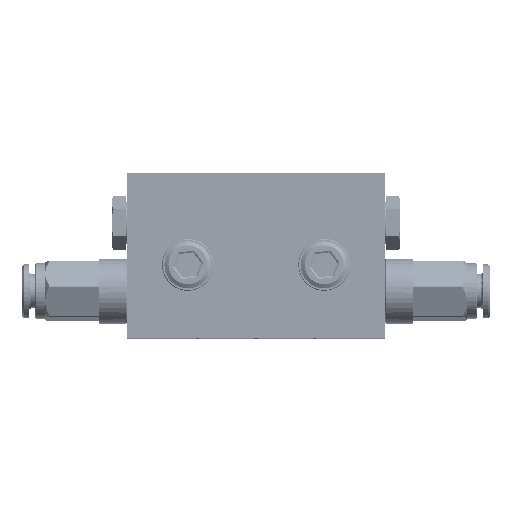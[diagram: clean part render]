
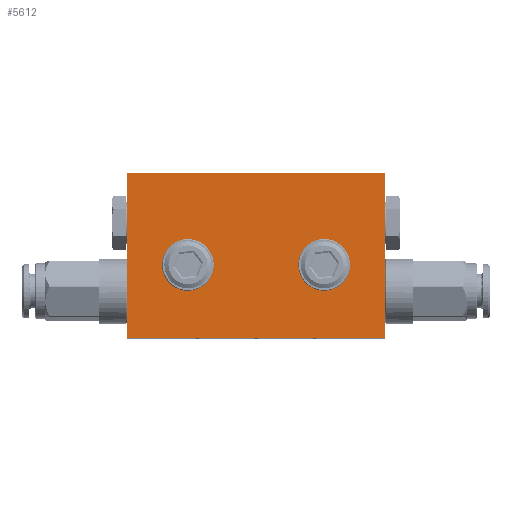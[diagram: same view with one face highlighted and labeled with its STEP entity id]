
A CAD part, top view. The second image highlights one B-rep face of the part: STEP entity #5612.
In plain terms, the highlighted planar face has unit normal (0, 0, 1) as drawn and (0, 0, -1) by its records, which use the part's own axes.
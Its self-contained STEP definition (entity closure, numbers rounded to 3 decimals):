
#261 = CARTESIAN_POINT ( 'NONE',  ( 27.5, 0., -4.85 ) ) ;
#298 = EDGE_CURVE ( 'NONE', #6702, #42361, #24674, .T. ) ;
#739 = ORIENTED_EDGE ( 'NONE', *, *, #5081, .F. ) ;
#1120 = FACE_OUTER_BOUND ( 'NONE', #42369, .T. ) ;
#1763 = CARTESIAN_POINT ( 'NONE',  ( 0., 0., -4.85 ) ) ;
#3007 = EDGE_LOOP ( 'NONE', ( #16946 ) ) ;
#4751 = FACE_BOUND ( 'NONE', #3007, .T. ) ;
#4778 = EDGE_CURVE ( 'NONE', #42361, #9513, #15328, .T. ) ;
#5081 = EDGE_CURVE ( 'NONE', #14073, #6702, #44138, .T. ) ;
#5324 = EDGE_CURVE ( 'NONE', #10629, #10629, #19378, .T. ) ;
#5612 = ADVANCED_FACE ( 'NONE', ( #4751, #7885, #1120 ), #37712, .F. ) ;
#6024 = VERTEX_POINT ( 'NONE', #46872 ) ;
#6702 = VERTEX_POINT ( 'NONE', #261 ) ;
#7086 = VECTOR ( 'NONE', #36971, 1000. ) ;
#7885 = FACE_BOUND ( 'NONE', #28309, .T. ) ;
#9484 = DIRECTION ( 'NONE',  ( -1., 0., 0. ) ) ;
#9513 = VERTEX_POINT ( 'NONE', #18565 ) ;
#10152 = CARTESIAN_POINT ( 'NONE',  ( -14.5, -15.5, -4.85 ) ) ;
#10629 = VERTEX_POINT ( 'NONE', #29866 ) ;
#11690 = DIRECTION ( 'NONE',  ( 0., 1., 0. ) ) ;
#12054 = VECTOR ( 'NONE', #36274, 1000. ) ;
#14073 = VERTEX_POINT ( 'NONE', #37720 ) ;
#15328 = LINE ( 'NONE', #44198, #7086 ) ;
#15565 = DIRECTION ( 'NONE',  ( 1., 0., 0. ) ) ;
#15958 = CIRCLE ( 'NONE', #17521, 3.1 ) ;
#16121 = EDGE_CURVE ( 'NONE', #6024, #6024, #15958, .T. ) ;
#16946 = ORIENTED_EDGE ( 'NONE', *, *, #5324, .F. ) ;
#16971 = CARTESIAN_POINT ( 'NONE',  ( 14.5, -15.5, -4.85 ) ) ;
#17098 = AXIS2_PLACEMENT_3D ( 'NONE', #10152, #24858, #39499 ) ;
#17420 = DIRECTION ( 'NONE',  ( -1., 0., 0. ) ) ;
#17521 = AXIS2_PLACEMENT_3D ( 'NONE', #16971, #35700, #9484 ) ;
#18565 = CARTESIAN_POINT ( 'NONE',  ( -27.5, -35., -4.85 ) ) ;
#19378 = CIRCLE ( 'NONE', #17098, 3.1 ) ;
#19491 = ORIENTED_EDGE ( 'NONE', *, *, #16121, .F. ) ;
#21664 = CARTESIAN_POINT ( 'NONE',  ( 0., -35., -4.85 ) ) ;
#24674 = LINE ( 'NONE', #1763, #40849 ) ;
#24858 = DIRECTION ( 'NONE',  ( 0., 0., -1. ) ) ;
#26204 = CARTESIAN_POINT ( 'NONE',  ( -27.5, 0., -4.85 ) ) ;
#28309 = EDGE_LOOP ( 'NONE', ( #19491 ) ) ;
#29067 = EDGE_CURVE ( 'NONE', #9513, #14073, #32671, .T. ) ;
#29739 = CARTESIAN_POINT ( 'NONE',  ( 27.5, 0., -4.85 ) ) ;
#29866 = CARTESIAN_POINT ( 'NONE',  ( -11.4, -15.5, -4.85 ) ) ;
#32671 = LINE ( 'NONE', #21664, #12054 ) ;
#33365 = CARTESIAN_POINT ( 'NONE',  ( 0., 0., -4.85 ) ) ;
#33851 = DIRECTION ( 'NONE',  ( 0., 0., 1. ) ) ;
#34761 = AXIS2_PLACEMENT_3D ( 'NONE', #33365, #33851, #15565 ) ;
#35700 = DIRECTION ( 'NONE',  ( 0., 0., -1. ) ) ;
#36274 = DIRECTION ( 'NONE',  ( 1., 0., 0. ) ) ;
#36971 = DIRECTION ( 'NONE',  ( 0., -1., 0. ) ) ;
#37712 = PLANE ( 'NONE',  #34761 ) ;
#37720 = CARTESIAN_POINT ( 'NONE',  ( 27.5, -35., -4.85 ) ) ;
#38566 = ORIENTED_EDGE ( 'NONE', *, *, #4778, .F. ) ;
#39499 = DIRECTION ( 'NONE',  ( 1., 0., 0. ) ) ;
#39729 = ORIENTED_EDGE ( 'NONE', *, *, #29067, .F. ) ;
#40849 = VECTOR ( 'NONE', #17420, 1000. ) ;
#42361 = VERTEX_POINT ( 'NONE', #26204 ) ;
#42369 = EDGE_LOOP ( 'NONE', ( #39729, #38566, #45356, #739 ) ) ;
#44138 = LINE ( 'NONE', #29739, #45479 ) ;
#44198 = CARTESIAN_POINT ( 'NONE',  ( -27.5, 0., -4.85 ) ) ;
#45356 = ORIENTED_EDGE ( 'NONE', *, *, #298, .F. ) ;
#45479 = VECTOR ( 'NONE', #11690, 1000. ) ;
#46872 = CARTESIAN_POINT ( 'NONE',  ( 11.4, -15.5, -4.85 ) ) ;
